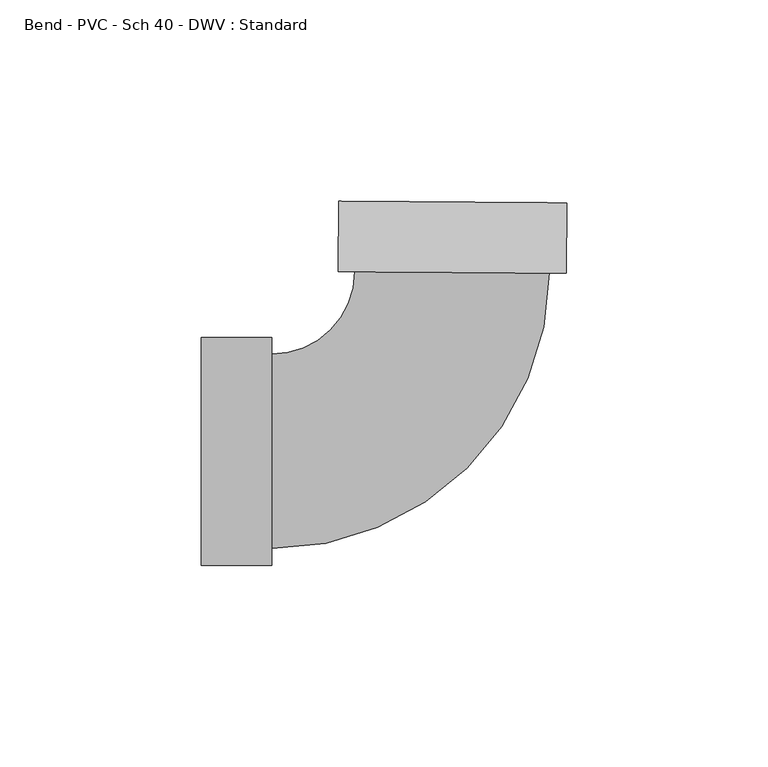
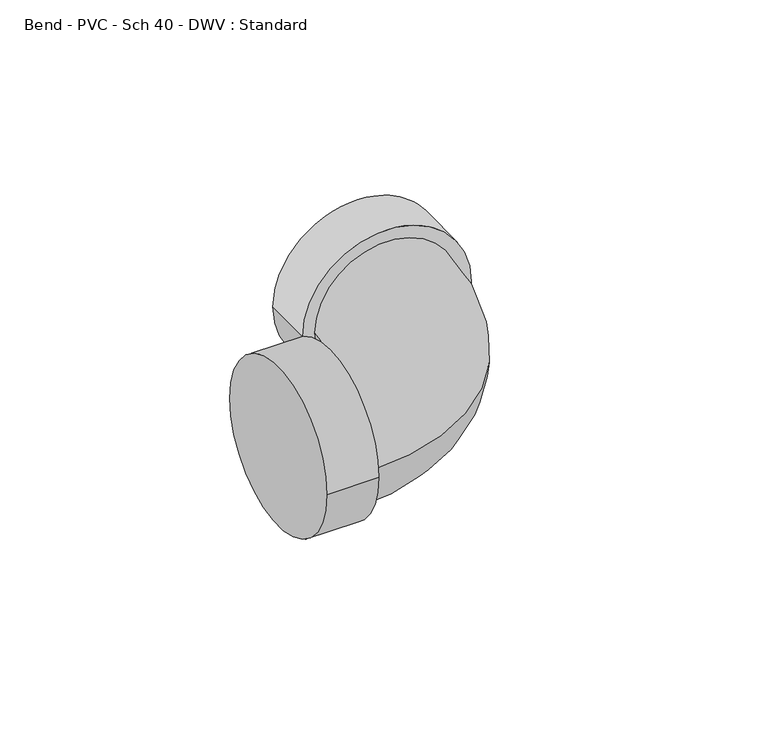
"""IFC4 building model written with IfcOpenShell, lengths in millimetres: pipe fitting geometry, Bend - PVC - Sch 40 - DWV : Standard."""

from ifc_helpers import new_model, si_unit, point, frame, origin, place, context, project, spatial, circle_curve, ellipse_curve, trimmed, source, transform, mapped, element, save
from ifc_brep_helpers import plane_surface, cylinder_surface, revolved_surface, advanced_brep


def bend_pvc_sch_40_dwv_standard_9377f51f(model_context):
    return source(origin(), model_context, "Body", "AdvancedBrep", [
        advanced_brep(
        [(-61.8998, -28.2829, 0.0), (-61.8998, 28.2829, 0.0), (-44.45, -28.2829, 0.0), (-44.45, 28.2829, 0.0), (-44.45, -24.13, 0.0), (-44.45, 24.13, 0.0), (-23.8019581, 44.6265189, 0.0), (24.4567329, 44.2710697, 0.0), (28.6095203, 44.2404824, 0.0), (-27.9547454, 44.6571063, 0.0), (28.7380432, 61.6898091, 0.0), (-27.8262225, 62.106433, 0.0)],
        [
            (0, 1, circle_curve(frame((-61.8998, 0.0, 0.0), z_axis=(-1.0, 0.0, 0.0), x_axis=(0.0, 1.0, 0.0)), 28.2829)),
            (1, 0, circle_curve(frame((-61.8998, 0.0, 0.0), z_axis=(-1.0, 0.0, 0.0), x_axis=(0.0, 1.0, 0.0)), 28.2829)),
            (2, 3, circle_curve(frame((-44.45, 0.0, 0.0), z_axis=(1.0, 0.0, 0.0), x_axis=(0.0, 1.0, 0.0)), 28.2829)),
            (3, 2, circle_curve(frame((-44.45, 0.0, 0.0), z_axis=(1.0, 0.0, 0.0), x_axis=(0.0, 1.0, 0.0)), 28.2829)),
            (4, 5, circle_curve(frame((-44.45, 0.0, 0.0), z_axis=(-1.0, 0.0, 0.0), x_axis=(0.0, 1.0, 0.0)), 24.13)),
            (5, 4, circle_curve(frame((-44.45, 0.0, 0.0), z_axis=(-1.0, 0.0, 0.0), x_axis=(0.0, 1.0, 0.0)), 24.13)),
            (0, 2),
            (3, 1),
            (6, 5, circle_curve(frame((-44.45, 44.778602, 0.0), z_axis=(0.0, 0.0, -1.0), x_axis=(0.0, -1.0, 0.0)), 20.648602)),
            (4, 7, circle_curve(frame((-44.45, 44.778602, 0.0), z_axis=(0.0, 0.0, 1.0), x_axis=(0.0, -1.0, 0.0)), 68.908602)),
            (7, 6, circle_curve(frame((0.3273874, 44.4487943, 0.0), z_axis=(-0.007365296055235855, -0.9999728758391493, 0.0), x_axis=(-0.9999728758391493, 0.007365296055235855, 0.0)), 24.13)),
            (6, 7, circle_curve(frame((0.3273874, 44.4487943, 0.0), z_axis=(-0.007365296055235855, -0.9999728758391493, 0.0), x_axis=(-0.9999728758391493, 0.007365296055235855, 0.0)), 24.13)),
            (8, 9, circle_curve(frame((0.3273874, 44.4487943, 0.0), z_axis=(-0.007365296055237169, -0.9999728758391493, 0.0), x_axis=(-0.9999728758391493, 0.007365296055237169, 0.0)), 28.2829)),
            (9, 8, circle_curve(frame((0.3273874, 44.4487943, 0.0), z_axis=(-0.007365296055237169, -0.9999728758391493, 0.0), x_axis=(-0.9999728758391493, 0.007365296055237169, 0.0)), 28.2829)),
            (10, 11, circle_curve(frame((0.4559104, 61.898121, 0.0), z_axis=(0.007365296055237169, 0.9999728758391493, 0.0), x_axis=(-0.9999728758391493, 0.007365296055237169, 0.0)), 28.2829)),
            (11, 10, circle_curve(frame((0.4559104, 61.898121, 0.0), z_axis=(0.007365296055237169, 0.9999728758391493, 0.0), x_axis=(-0.9999728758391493, 0.007365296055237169, 0.0)), 28.2829)),
            (8, 10),
            (11, 9),
        ],
        [
            plane_surface(frame((-61.8998, 0.0, 0.0), z_axis=(-1.0, 0.0, 0.0), x_axis=(0.0, 0.0, 1.0))),
            plane_surface(frame((-44.45, 0.0, 0.0), z_axis=(1.0, 0.0, 0.0), x_axis=(0.0, 0.0, 1.0))),
            cylinder_surface(frame((-61.8998, 0.0, 0.0), z_axis=(-1.0, 0.0, 0.0), x_axis=(0.0, 1.0, 0.0)), 28.2829),
            revolved_surface(trimmed(ellipse_curve(frame((-44.45, 0.0, 0.0), z_axis=(-1.0, 0.0, 0.0), x_axis=(0.0, 1.0, 0.0)), 24.13, 24.13), [point((-44.45, -24.13, 0.0))], [point((-44.45, 24.13, 0.0))], True, "CARTESIAN"), (-44.45, 44.778602, 0.0), (0.0, 0.0, 1.0)),
            revolved_surface(trimmed(ellipse_curve(frame((-44.45, 0.0, 0.0), z_axis=(-1.0, 0.0, 0.0), x_axis=(0.0, 1.0, 0.0)), 24.13, 24.13), [point((-44.45, 24.13, 0.0))], [point((-44.45, -24.13, 0.0))], True, "CARTESIAN"), (-44.45, 44.778602, 0.0), (0.0, 0.0, 1.0)),
            plane_surface(frame((0.3273874, 44.4487943, 0.0), z_axis=(-0.007365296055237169, -0.9999728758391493, 0.0), x_axis=(0.0, 0.0, 1.0))),
            plane_surface(frame((0.4559104, 61.898121, 0.0), z_axis=(0.007365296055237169, 0.9999728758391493, 0.0), x_axis=(0.0, 0.0, 1.0))),
            cylinder_surface(frame((0.3273874, 44.4487943, 0.0), z_axis=(-0.007365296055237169, -0.9999728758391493, 0.0), x_axis=(-0.9999728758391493, 0.007365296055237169, 0.0)), 28.2829),
        ],
        [
            (0, [[1, 2]]),
            (1, [[3, 4], [5, 6]]),
            (2, [[-1, 7, -4, 8]]),
            (2, [[-2, -8, -3, -7]]),
            (3, [[9, -5, 10, 11]]),
            (4, [[-9, 12, -10, -6]]),
            (5, [[13, 14], [-11, -12]]),
            (6, [[15, 16]]),
            (7, [[-13, 17, -16, 18]]),
            (7, [[-14, -18, -15, -17]]),
        ],
    ),
    ])


if __name__ == "__main__":
    model = new_model("IFC4")
    model_context = context("Model", 3, world=origin())
    ifc_project = project(units=[si_unit("LENGTHUNIT", "METRE", prefix="MILLI")], contexts=[model_context])
    site = spatial("IfcSite", under=ifc_project)
    building = spatial("IfcBuilding", under=site)
    placement = place(None, origin())
    bend_pvc_sch_40_dwv_standard_shape = bend_pvc_sch_40_dwv_standard_9377f51f(model_context)
    element("IfcPipeFitting", 1, ObjectType="Bend - PVC - Sch 40 - DWV : Standard", at=placement, inside=building, context=model_context, shape_type="MappedRepresentation", body=[
        mapped(bend_pvc_sch_40_dwv_standard_shape, transform((0.0, 0.0, 0.0), x_axis=(1.0, 0.0, 0.0), y_axis=(0.0, 1.0, 0.0), z_axis=(0.0, 0.0, 1.0))),
    ])
    save(model, "model.ifc")
